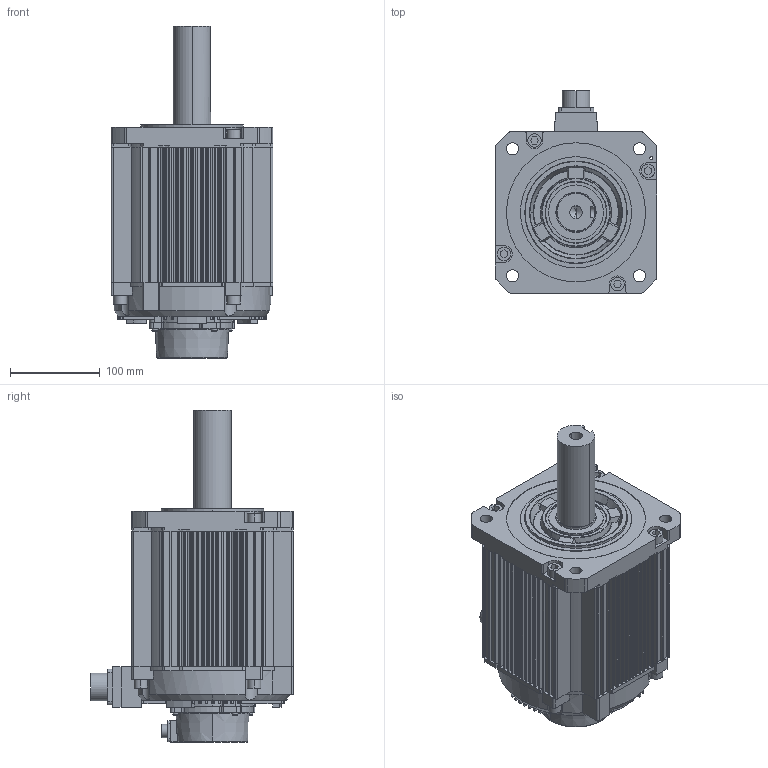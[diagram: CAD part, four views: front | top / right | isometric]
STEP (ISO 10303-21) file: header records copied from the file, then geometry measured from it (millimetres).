
FILE_DESCRIPTION (( 'STEP AP203' ), '1' );
FILE_NAME ('180A-35015.STEP', '2024-09-05T10:52:19', ( '' ), ( '' ), 'SwSTEP 2.0', 'SolidWorks 2018', '' );
FILE_SCHEMA (( 'CONFIG_CONTROL_DESIGN' ));
Length unit declared in the file: millimetre
Products named in the file (9): 橈勤硉晤鎢ん誘欶  S13E.10-01; CMS3102A22-22P-Z; 35ㄛ48NM堤粣; 35N.M儂褲 - 萵掛; 180A-35015; 綴裔; ヶ裔; 蚐猾; SC-CMV1-R10P-E
Assembly tree (8 placements, depth 2):
  180A-35015
    CMS3102A22-22P-Z
    SC-CMV1-R10P-E
    綴裔
    ヶ裔
    蚐猾
    35ㄛ48NM堤粣
    35N.M儂褲 - 萵掛
    橈勤硉晤鎢ん誘欶  S13E.10-01
Bounding box: 180 x 226 x 370 mm (x, y, z)
Volume: 1914838.7 mm3; surface area: 619183.4 mm2
Topology: 8 solids, 12 shells, 1756 faces, 4822 edges, 3139 vertices
Faces by surface type: plane 871, cylinder 755, torus 59, cone 45, bspline 14, sphere 12
Entity records: 58113 total; most frequent: CARTESIAN_POINT 11304, DIRECTION 9972, ORIENTED_EDGE 9540, EDGE_CURVE 4770, AXIS2_PLACEMENT_3D 3575, VERTEX_POINT 3127, VECTOR 2822, LINE 2822
